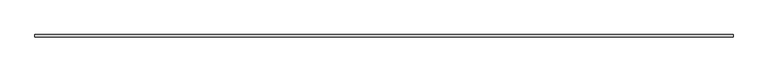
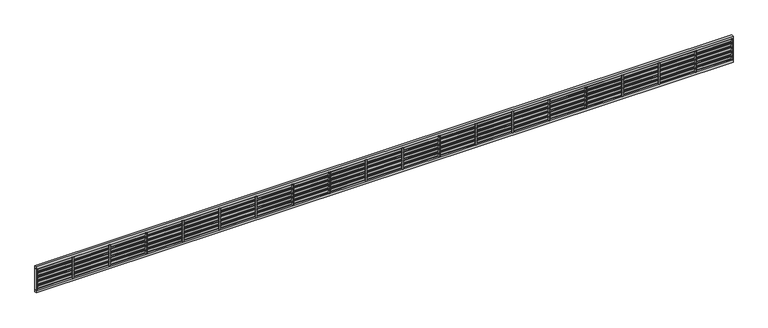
"""IFC4 building model written with IfcOpenShell, lengths in millimetres: furniture geometry, Mobiliário 1 : Mobiliário 25."""

from ifc_helpers import new_model, si_unit, frame, origin, place, context, project, spatial, polyline, outline, extrude, source, transform, mapped, element, save


def furniture_104a0ec1(model_context):
    return source(origin(), model_context, "Body", "SweptSolid", [
        extrude(outline(polyline([(-12491.5799257, 4208.1891535), (-12420.5697205, 4021.2197689), (-12443.9408936, 4012.3434933), (-12444.4734702, 4013.7457637), (-12422.5045675, 4022.0894628), (-12492.4496195, 4206.2543066), (-12514.4185222, 4197.9106075), (-12514.9510988, 4199.3128778), (-12491.5799257, 4208.1891535)])), frame((-10124.2352635, 0.0, 0.0), z_axis=(1.0, 0.0, 0.0), x_axis=(0.0, 1.0, 0.0)), (0.0, 0.0, 1.0), 1568.0),
        extrude(outline(polyline([(-12491.5799257, 4208.1891535), (-12420.5697205, 4021.2197689), (-12443.9408936, 4012.3434933), (-12444.4734702, 4013.7457637), (-12422.5045675, 4022.0894628), (-12492.4496195, 4206.2543066), (-12514.4185222, 4197.9106075), (-12514.9510988, 4199.3128778), (-12491.5799257, 4208.1891535)])), frame((-8514.2352635, 0.0, 0.0), z_axis=(1.0, 0.0, 0.0), x_axis=(0.0, 1.0, 0.0)), (0.0, 0.0, 1.0), 1568.0),
        extrude(outline(polyline([(-12491.5799257, 4208.1891535), (-12420.5697205, 4021.2197689), (-12443.9408936, 4012.3434933), (-12444.4734702, 4013.7457637), (-12422.5045675, 4022.0894628), (-12492.4496195, 4206.2543066), (-12514.4185222, 4197.9106075), (-12514.9510988, 4199.3128778), (-12491.5799257, 4208.1891535)])), frame((-6904.2352635, 0.0, 0.0), z_axis=(1.0, 0.0, 0.0), x_axis=(0.0, 1.0, 0.0)), (0.0, 0.0, 1.0), 1568.0),
        extrude(outline(polyline([(-12491.5799257, 4208.1891535), (-12420.5697205, 4021.2197689), (-12443.9408936, 4012.3434933), (-12444.4734702, 4013.7457637), (-12422.5045675, 4022.0894628), (-12492.4496195, 4206.2543066), (-12514.4185222, 4197.9106075), (-12514.9510988, 4199.3128778), (-12491.5799257, 4208.1891535)])), frame((-5294.2352635, 0.0, 0.0), z_axis=(1.0, 0.0, 0.0), x_axis=(0.0, 1.0, 0.0)), (0.0, 0.0, 1.0), 1570.0),
        extrude(outline(polyline([(-12491.5799257, 4208.1891535), (-12420.5697205, 4021.2197689), (-12443.9408936, 4012.3434933), (-12444.4734702, 4013.7457637), (-12422.5045675, 4022.0894628), (-12492.4496195, 4206.2543066), (-12514.4185222, 4197.9106075), (-12514.9510988, 4199.3128778), (-12491.5799257, 4208.1891535)])), frame((-11734.2352635, 0.0, 0.0), z_axis=(1.0, 0.0, 0.0), x_axis=(0.0, 1.0, 0.0)), (0.0, 0.0, 1.0), 1570.0),
        extrude(outline(polyline([(-12491.5799257, 4208.1891535), (-12420.5697205, 4021.2197689), (-12443.9408936, 4012.3434933), (-12444.4734702, 4013.7457637), (-12422.5045675, 4022.0894628), (-12492.4496195, 4206.2543066), (-12514.4185222, 4197.9106075), (-12514.9510988, 4199.3128778), (-12491.5799257, 4208.1891535)])), frame((-21394.2352635, 0.0, 0.0), z_axis=(1.0, 0.0, 0.0), x_axis=(0.0, 1.0, 0.0)), (0.0, 0.0, 1.0), 1568.0),
        extrude(outline(polyline([(-12491.5799257, 4208.1891535), (-12420.5697205, 4021.2197689), (-12443.9408936, 4012.3434933), (-12444.4734702, 4013.7457637), (-12422.5045675, 4022.0894628), (-12492.4496195, 4206.2543066), (-12514.4185222, 4197.9106075), (-12514.9510988, 4199.3128778), (-12491.5799257, 4208.1891535)])), frame((-19784.2352635, 0.0, 0.0), z_axis=(1.0, 0.0, 0.0), x_axis=(0.0, 1.0, 0.0)), (0.0, 0.0, 1.0), 1568.0),
        extrude(outline(polyline([(-12491.5799257, 4208.1891535), (-12420.5697205, 4021.2197689), (-12443.9408936, 4012.3434933), (-12444.4734702, 4013.7457637), (-12422.5045675, 4022.0894628), (-12492.4496195, 4206.2543066), (-12514.4185222, 4197.9106075), (-12514.9510988, 4199.3128778), (-12491.5799257, 4208.1891535)])), frame((-18174.2352635, 0.0, 0.0), z_axis=(1.0, 0.0, 0.0), x_axis=(0.0, 1.0, 0.0)), (0.0, 0.0, 1.0), 1568.0),
        extrude(outline(polyline([(-12491.5799257, 4208.1891535), (-12420.5697205, 4021.2197689), (-12443.9408936, 4012.3434933), (-12444.4734702, 4013.7457637), (-12422.5045675, 4022.0894628), (-12492.4496195, 4206.2543066), (-12514.4185222, 4197.9106075), (-12514.9510988, 4199.3128778), (-12491.5799257, 4208.1891535)])), frame((-16564.2352635, 0.0, 0.0), z_axis=(1.0, 0.0, 0.0), x_axis=(0.0, 1.0, 0.0)), (0.0, 0.0, 1.0), 1570.0),
        extrude(outline(polyline([(-12491.5799257, 4208.1891535), (-12420.5697205, 4021.2197689), (-12443.9408936, 4012.3434933), (-12444.4734702, 4013.7457637), (-12422.5045675, 4022.0894628), (-12492.4496195, 4206.2543066), (-12514.4185222, 4197.9106075), (-12514.9510988, 4199.3128778), (-12491.5799257, 4208.1891535)])), frame((-23004.2352635, 0.0, 0.0), z_axis=(1.0, 0.0, 0.0), x_axis=(0.0, 1.0, 0.0)), (0.0, 0.0, 1.0), 1570.0),
        extrude(outline(polyline([(-12491.5799257, 4208.1891535), (-12420.5697205, 4021.2197689), (-12443.9408936, 4012.3434933), (-12444.4734702, 4013.7457637), (-12422.5045675, 4022.0894628), (-12492.4496195, 4206.2543066), (-12514.4185222, 4197.9106075), (-12514.9510988, 4199.3128778), (-12491.5799257, 4208.1891535)])), frame((-14954.2352635, 0.0, 0.0), z_axis=(1.0, 0.0, 0.0), x_axis=(0.0, 1.0, 0.0)), (0.0, 0.0, 1.0), 1568.0),
        extrude(outline(polyline([(-12491.5799257, 4208.1891535), (-12420.5697205, 4021.2197689), (-12443.9408936, 4012.3434933), (-12444.4734702, 4013.7457637), (-12422.5045675, 4022.0894628), (-12492.4496195, 4206.2543066), (-12514.4185222, 4197.9106075), (-12514.9510988, 4199.3128778), (-12491.5799257, 4208.1891535)])), frame((-13346.2352635, 0.0, 0.0), z_axis=(1.0, 0.0, 0.0), x_axis=(0.0, 1.0, 0.0)), (0.0, 0.0, 1.0), 1570.0),
        extrude(outline(polyline([(-12491.5799257, 3609.7356794), (-12420.5697205, 3422.7662948), (-12443.9408936, 3413.8900192), (-12444.4734702, 3415.2922896), (-12422.5045675, 3423.6359887), (-12492.4496195, 3607.8008325), (-12514.4185222, 3599.4571334), (-12514.9510988, 3600.8594038), (-12491.5799257, 3609.7356794)])), frame((-5294.2352635, 0.0, 0.0), z_axis=(1.0, 0.0, 0.0), x_axis=(0.0, 1.0, 0.0)), (0.0, 0.0, 1.0), 1570.0),
        extrude(outline(polyline([(-12491.5799257, 3809.2201708), (-12420.5697205, 3622.2507862), (-12443.9408936, 3613.3745106), (-12444.4734702, 3614.7767809), (-12422.5045675, 3623.12048), (-12492.4496195, 3807.2853238), (-12514.4185222, 3798.9416247), (-12514.9510988, 3800.3438951), (-12491.5799257, 3809.2201708)])), frame((-5294.2352635, 0.0, 0.0), z_axis=(1.0, 0.0, 0.0), x_axis=(0.0, 1.0, 0.0)), (0.0, 0.0, 1.0), 1570.0),
        extrude(outline(polyline([(-12491.5799257, 4008.7046621), (-12420.5697205, 3821.7352776), (-12443.9408936, 3812.8590019), (-12444.4734702, 3814.2612723), (-12422.5045675, 3822.6049714), (-12492.4496195, 4006.7698152), (-12514.4185222, 3998.4261161), (-12514.9510988, 3999.8283865), (-12491.5799257, 4008.7046621)])), frame((-5294.2352635, 0.0, 0.0), z_axis=(1.0, 0.0, 0.0), x_axis=(0.0, 1.0, 0.0)), (0.0, 0.0, 1.0), 1570.0),
        extrude(outline(polyline([(-12491.5799257, 4407.6736449), (-12420.5697205, 4220.7042603), (-12443.9408936, 4211.8279846), (-12444.4734702, 4213.230255), (-12422.5045675, 4221.5739541), (-12492.4496195, 4405.7387979), (-12514.4185222, 4397.3950988), (-12514.9510988, 4398.7973692), (-12491.5799257, 4407.6736449)])), frame((-5294.2352635, 0.0, 0.0), z_axis=(1.0, 0.0, 0.0), x_axis=(0.0, 1.0, 0.0)), (0.0, 0.0, 1.0), 1570.0),
        extrude(outline(polyline([(-12491.5799257, 3609.7356794), (-12420.5697205, 3422.7662948), (-12443.9408936, 3413.8900192), (-12444.4734702, 3415.2922896), (-12422.5045675, 3423.6359887), (-12492.4496195, 3607.8008325), (-12514.4185222, 3599.4571334), (-12514.9510988, 3600.8594038), (-12491.5799257, 3609.7356794)])), frame((-6904.2352635, 0.0, 0.0), z_axis=(1.0, 0.0, 0.0), x_axis=(0.0, 1.0, 0.0)), (0.0, 0.0, 1.0), 1570.0),
        extrude(outline(polyline([(-12491.5799257, 3809.2201708), (-12420.5697205, 3622.2507862), (-12443.9408936, 3613.3745106), (-12444.4734702, 3614.7767809), (-12422.5045675, 3623.12048), (-12492.4496195, 3807.2853238), (-12514.4185222, 3798.9416247), (-12514.9510988, 3800.3438951), (-12491.5799257, 3809.2201708)])), frame((-6904.2352635, 0.0, 0.0), z_axis=(1.0, 0.0, 0.0), x_axis=(0.0, 1.0, 0.0)), (0.0, 0.0, 1.0), 1570.0),
        extrude(outline(polyline([(-12491.5799257, 4008.7046621), (-12420.5697205, 3821.7352776), (-12443.9408936, 3812.8590019), (-12444.4734702, 3814.2612723), (-12422.5045675, 3822.6049714), (-12492.4496195, 4006.7698152), (-12514.4185222, 3998.4261161), (-12514.9510988, 3999.8283865), (-12491.5799257, 4008.7046621)])), frame((-6904.2352635, 0.0, 0.0), z_axis=(1.0, 0.0, 0.0), x_axis=(0.0, 1.0, 0.0)), (0.0, 0.0, 1.0), 1570.0),
        extrude(outline(polyline([(-12491.5799257, 4407.6736449), (-12420.5697205, 4220.7042603), (-12443.9408936, 4211.8279846), (-12444.4734702, 4213.230255), (-12422.5045675, 4221.5739541), (-12492.4496195, 4405.7387979), (-12514.4185222, 4397.3950988), (-12514.9510988, 4398.7973692), (-12491.5799257, 4407.6736449)])), frame((-6904.2352635, 0.0, 0.0), z_axis=(1.0, 0.0, 0.0), x_axis=(0.0, 1.0, 0.0)), (0.0, 0.0, 1.0), 1570.0),
        extrude(outline(polyline([(-12491.5799257, 3609.7356794), (-12420.5697205, 3422.7662948), (-12443.9408936, 3413.8900192), (-12444.4734702, 3415.2922896), (-12422.5045675, 3423.6359887), (-12492.4496195, 3607.8008325), (-12514.4185222, 3599.4571334), (-12514.9510988, 3600.8594038), (-12491.5799257, 3609.7356794)])), frame((-8514.2352635, 0.0, 0.0), z_axis=(1.0, 0.0, 0.0), x_axis=(0.0, 1.0, 0.0)), (0.0, 0.0, 1.0), 1570.0),
        extrude(outline(polyline([(-12491.5799257, 3809.2201708), (-12420.5697205, 3622.2507862), (-12443.9408936, 3613.3745106), (-12444.4734702, 3614.7767809), (-12422.5045675, 3623.12048), (-12492.4496195, 3807.2853238), (-12514.4185222, 3798.9416247), (-12514.9510988, 3800.3438951), (-12491.5799257, 3809.2201708)])), frame((-8514.2352635, 0.0, 0.0), z_axis=(1.0, 0.0, 0.0), x_axis=(0.0, 1.0, 0.0)), (0.0, 0.0, 1.0), 1570.0),
        extrude(outline(polyline([(-12491.5799257, 4008.7046621), (-12420.5697205, 3821.7352776), (-12443.9408936, 3812.8590019), (-12444.4734702, 3814.2612723), (-12422.5045675, 3822.6049714), (-12492.4496195, 4006.7698152), (-12514.4185222, 3998.4261161), (-12514.9510988, 3999.8283865), (-12491.5799257, 4008.7046621)])), frame((-8514.2352635, 0.0, 0.0), z_axis=(1.0, 0.0, 0.0), x_axis=(0.0, 1.0, 0.0)), (0.0, 0.0, 1.0), 1570.0),
        extrude(outline(polyline([(-12491.5799257, 4407.6736449), (-12420.5697205, 4220.7042603), (-12443.9408936, 4211.8279846), (-12444.4734702, 4213.230255), (-12422.5045675, 4221.5739541), (-12492.4496195, 4405.7387979), (-12514.4185222, 4397.3950988), (-12514.9510988, 4398.7973692), (-12491.5799257, 4407.6736449)])), frame((-8514.2352635, 0.0, 0.0), z_axis=(1.0, 0.0, 0.0), x_axis=(0.0, 1.0, 0.0)), (0.0, 0.0, 1.0), 1570.0),
        extrude(outline(polyline([(-12491.5799257, 3609.7356794), (-12420.5697205, 3422.7662948), (-12443.9408936, 3413.8900192), (-12444.4734702, 3415.2922896), (-12422.5045675, 3423.6359887), (-12492.4496195, 3607.8008325), (-12514.4185222, 3599.4571334), (-12514.9510988, 3600.8594038), (-12491.5799257, 3609.7356794)])), frame((-10124.2352635, 0.0, 0.0), z_axis=(1.0, 0.0, 0.0), x_axis=(0.0, 1.0, 0.0)), (0.0, 0.0, 1.0), 1570.0),
        extrude(outline(polyline([(-12491.5799257, 3809.2201708), (-12420.5697205, 3622.2507862), (-12443.9408936, 3613.3745106), (-12444.4734702, 3614.7767809), (-12422.5045675, 3623.12048), (-12492.4496195, 3807.2853238), (-12514.4185222, 3798.9416247), (-12514.9510988, 3800.3438951), (-12491.5799257, 3809.2201708)])), frame((-10124.2352635, 0.0, 0.0), z_axis=(1.0, 0.0, 0.0), x_axis=(0.0, 1.0, 0.0)), (0.0, 0.0, 1.0), 1570.0),
        extrude(outline(polyline([(-12491.5799257, 4008.7046621), (-12420.5697205, 3821.7352776), (-12443.9408936, 3812.8590019), (-12444.4734702, 3814.2612723), (-12422.5045675, 3822.6049714), (-12492.4496195, 4006.7698152), (-12514.4185222, 3998.4261161), (-12514.9510988, 3999.8283865), (-12491.5799257, 4008.7046621)])), frame((-10124.2352635, 0.0, 0.0), z_axis=(1.0, 0.0, 0.0), x_axis=(0.0, 1.0, 0.0)), (0.0, 0.0, 1.0), 1570.0),
        extrude(outline(polyline([(-12491.5799257, 4407.6736449), (-12420.5697205, 4220.7042603), (-12443.9408936, 4211.8279846), (-12444.4734702, 4213.230255), (-12422.5045675, 4221.5739541), (-12492.4496195, 4405.7387979), (-12514.4185222, 4397.3950988), (-12514.9510988, 4398.7973692), (-12491.5799257, 4407.6736449)])), frame((-10124.2352635, 0.0, 0.0), z_axis=(1.0, 0.0, 0.0), x_axis=(0.0, 1.0, 0.0)), (0.0, 0.0, 1.0), 1570.0),
        extrude(outline(polyline([(-12491.5799257, 3609.7356794), (-12420.5697205, 3422.7662948), (-12443.9408936, 3413.8900192), (-12444.4734702, 3415.2922896), (-12422.5045675, 3423.6359887), (-12492.4496195, 3607.8008325), (-12514.4185222, 3599.4571334), (-12514.9510988, 3600.8594038), (-12491.5799257, 3609.7356794)])), frame((-11734.2352635, 0.0, 0.0), z_axis=(1.0, 0.0, 0.0), x_axis=(0.0, 1.0, 0.0)), (0.0, 0.0, 1.0), 1570.0),
        extrude(outline(polyline([(-12491.5799257, 3809.2201708), (-12420.5697205, 3622.2507862), (-12443.9408936, 3613.3745106), (-12444.4734702, 3614.7767809), (-12422.5045675, 3623.12048), (-12492.4496195, 3807.2853238), (-12514.4185222, 3798.9416247), (-12514.9510988, 3800.3438951), (-12491.5799257, 3809.2201708)])), frame((-11734.2352635, 0.0, 0.0), z_axis=(1.0, 0.0, 0.0), x_axis=(0.0, 1.0, 0.0)), (0.0, 0.0, 1.0), 1570.0),
        extrude(outline(polyline([(-12491.5799257, 4008.7046621), (-12420.5697205, 3821.7352776), (-12443.9408936, 3812.8590019), (-12444.4734702, 3814.2612723), (-12422.5045675, 3822.6049714), (-12492.4496195, 4006.7698152), (-12514.4185222, 3998.4261161), (-12514.9510988, 3999.8283865), (-12491.5799257, 4008.7046621)])), frame((-11734.2352635, 0.0, 0.0), z_axis=(1.0, 0.0, 0.0), x_axis=(0.0, 1.0, 0.0)), (0.0, 0.0, 1.0), 1570.0),
        extrude(outline(polyline([(-12491.5799257, 4407.6736449), (-12420.5697205, 4220.7042603), (-12443.9408936, 4211.8279846), (-12444.4734702, 4213.230255), (-12422.5045675, 4221.5739541), (-12492.4496195, 4405.7387979), (-12514.4185222, 4397.3950988), (-12514.9510988, 4398.7973692), (-12491.5799257, 4407.6736449)])), frame((-11734.2352635, 0.0, 0.0), z_axis=(1.0, 0.0, 0.0), x_axis=(0.0, 1.0, 0.0)), (0.0, 0.0, 1.0), 1570.0),
        extrude(outline(polyline([(-12491.5799257, 3609.7356794), (-12420.5697205, 3422.7662948), (-12443.9408936, 3413.8900192), (-12444.4734702, 3415.2922896), (-12422.5045675, 3423.6359887), (-12492.4496195, 3607.8008325), (-12514.4185222, 3599.4571334), (-12514.9510988, 3600.8594038), (-12491.5799257, 3609.7356794)])), frame((-13344.2352635, 0.0, 0.0), z_axis=(1.0, 0.0, 0.0), x_axis=(0.0, 1.0, 0.0)), (0.0, 0.0, 1.0), 1570.0),
        extrude(outline(polyline([(-12491.5799257, 3809.2201708), (-12420.5697205, 3622.2507862), (-12443.9408936, 3613.3745106), (-12444.4734702, 3614.7767809), (-12422.5045675, 3623.12048), (-12492.4496195, 3807.2853238), (-12514.4185222, 3798.9416247), (-12514.9510988, 3800.3438951), (-12491.5799257, 3809.2201708)])), frame((-13344.2352635, 0.0, 0.0), z_axis=(1.0, 0.0, 0.0), x_axis=(0.0, 1.0, 0.0)), (0.0, 0.0, 1.0), 1570.0),
        extrude(outline(polyline([(-12491.5799257, 4008.7046621), (-12420.5697205, 3821.7352776), (-12443.9408936, 3812.8590019), (-12444.4734702, 3814.2612723), (-12422.5045675, 3822.6049714), (-12492.4496195, 4006.7698152), (-12514.4185222, 3998.4261161), (-12514.9510988, 3999.8283865), (-12491.5799257, 4008.7046621)])), frame((-13344.2352635, 0.0, 0.0), z_axis=(1.0, 0.0, 0.0), x_axis=(0.0, 1.0, 0.0)), (0.0, 0.0, 1.0), 1570.0),
        extrude(outline(polyline([(-12491.5799257, 4407.6736449), (-12420.5697205, 4220.7042603), (-12443.9408936, 4211.8279846), (-12444.4734702, 4213.230255), (-12422.5045675, 4221.5739541), (-12492.4496195, 4405.7387979), (-12514.4185222, 4397.3950988), (-12514.9510988, 4398.7973692), (-12491.5799257, 4407.6736449)])), frame((-13344.2352635, 0.0, 0.0), z_axis=(1.0, 0.0, 0.0), x_axis=(0.0, 1.0, 0.0)), (0.0, 0.0, 1.0), 1570.0),
        extrude(outline(polyline([(-12491.5799257, 3609.7356794), (-12420.5697205, 3422.7662948), (-12443.9408936, 3413.8900192), (-12444.4734702, 3415.2922896), (-12422.5045675, 3423.6359887), (-12492.4496195, 3607.8008325), (-12514.4185222, 3599.4571334), (-12514.9510988, 3600.8594038), (-12491.5799257, 3609.7356794)])), frame((-14954.2352635, 0.0, 0.0), z_axis=(1.0, 0.0, 0.0), x_axis=(0.0, 1.0, 0.0)), (0.0, 0.0, 1.0), 1570.0),
        extrude(outline(polyline([(-12491.5799257, 3809.2201708), (-12420.5697205, 3622.2507862), (-12443.9408936, 3613.3745106), (-12444.4734702, 3614.7767809), (-12422.5045675, 3623.12048), (-12492.4496195, 3807.2853238), (-12514.4185222, 3798.9416247), (-12514.9510988, 3800.3438951), (-12491.5799257, 3809.2201708)])), frame((-14954.2352635, 0.0, 0.0), z_axis=(1.0, 0.0, 0.0), x_axis=(0.0, 1.0, 0.0)), (0.0, 0.0, 1.0), 1570.0),
        extrude(outline(polyline([(-12491.5799257, 4008.7046621), (-12420.5697205, 3821.7352776), (-12443.9408936, 3812.8590019), (-12444.4734702, 3814.2612723), (-12422.5045675, 3822.6049714), (-12492.4496195, 4006.7698152), (-12514.4185222, 3998.4261161), (-12514.9510988, 3999.8283865), (-12491.5799257, 4008.7046621)])), frame((-14954.2352635, 0.0, 0.0), z_axis=(1.0, 0.0, 0.0), x_axis=(0.0, 1.0, 0.0)), (0.0, 0.0, 1.0), 1570.0),
        extrude(outline(polyline([(-12491.5799257, 4407.6736449), (-12420.5697205, 4220.7042603), (-12443.9408936, 4211.8279846), (-12444.4734702, 4213.230255), (-12422.5045675, 4221.5739541), (-12492.4496195, 4405.7387979), (-12514.4185222, 4397.3950988), (-12514.9510988, 4398.7973692), (-12491.5799257, 4407.6736449)])), frame((-14954.2352635, 0.0, 0.0), z_axis=(1.0, 0.0, 0.0), x_axis=(0.0, 1.0, 0.0)), (0.0, 0.0, 1.0), 1570.0),
        extrude(outline(polyline([(-12491.5799257, 3609.7356794), (-12420.5697205, 3422.7662948), (-12443.9408936, 3413.8900192), (-12444.4734702, 3415.2922896), (-12422.5045675, 3423.6359887), (-12492.4496195, 3607.8008325), (-12514.4185222, 3599.4571334), (-12514.9510988, 3600.8594038), (-12491.5799257, 3609.7356794)])), frame((-16564.2352635, 0.0, 0.0), z_axis=(1.0, 0.0, 0.0), x_axis=(0.0, 1.0, 0.0)), (0.0, 0.0, 1.0), 1570.0),
        extrude(outline(polyline([(-12491.5799257, 3809.2201708), (-12420.5697205, 3622.2507862), (-12443.9408936, 3613.3745106), (-12444.4734702, 3614.7767809), (-12422.5045675, 3623.12048), (-12492.4496195, 3807.2853238), (-12514.4185222, 3798.9416247), (-12514.9510988, 3800.3438951), (-12491.5799257, 3809.2201708)])), frame((-16564.2352635, 0.0, 0.0), z_axis=(1.0, 0.0, 0.0), x_axis=(0.0, 1.0, 0.0)), (0.0, 0.0, 1.0), 1570.0),
        extrude(outline(polyline([(-12491.5799257, 4008.7046621), (-12420.5697205, 3821.7352776), (-12443.9408936, 3812.8590019), (-12444.4734702, 3814.2612723), (-12422.5045675, 3822.6049714), (-12492.4496195, 4006.7698152), (-12514.4185222, 3998.4261161), (-12514.9510988, 3999.8283865), (-12491.5799257, 4008.7046621)])), frame((-16564.2352635, 0.0, 0.0), z_axis=(1.0, 0.0, 0.0), x_axis=(0.0, 1.0, 0.0)), (0.0, 0.0, 1.0), 1570.0),
        extrude(outline(polyline([(-12491.5799257, 4407.6736449), (-12420.5697205, 4220.7042603), (-12443.9408936, 4211.8279846), (-12444.4734702, 4213.230255), (-12422.5045675, 4221.5739541), (-12492.4496195, 4405.7387979), (-12514.4185222, 4397.3950988), (-12514.9510988, 4398.7973692), (-12491.5799257, 4407.6736449)])), frame((-16564.2352635, 0.0, 0.0), z_axis=(1.0, 0.0, 0.0), x_axis=(0.0, 1.0, 0.0)), (0.0, 0.0, 1.0), 1570.0),
        extrude(outline(polyline([(-12491.5799257, 3609.7356794), (-12420.5697205, 3422.7662948), (-12443.9408936, 3413.8900192), (-12444.4734702, 3415.2922896), (-12422.5045675, 3423.6359887), (-12492.4496195, 3607.8008325), (-12514.4185222, 3599.4571334), (-12514.9510988, 3600.8594038), (-12491.5799257, 3609.7356794)])), frame((-18174.2352635, 0.0, 0.0), z_axis=(1.0, 0.0, 0.0), x_axis=(0.0, 1.0, 0.0)), (0.0, 0.0, 1.0), 1570.0),
        extrude(outline(polyline([(-12491.5799257, 3809.2201708), (-12420.5697205, 3622.2507862), (-12443.9408936, 3613.3745106), (-12444.4734702, 3614.7767809), (-12422.5045675, 3623.12048), (-12492.4496195, 3807.2853238), (-12514.4185222, 3798.9416247), (-12514.9510988, 3800.3438951), (-12491.5799257, 3809.2201708)])), frame((-18174.2352635, 0.0, 0.0), z_axis=(1.0, 0.0, 0.0), x_axis=(0.0, 1.0, 0.0)), (0.0, 0.0, 1.0), 1570.0),
        extrude(outline(polyline([(-12491.5799257, 4008.7046621), (-12420.5697205, 3821.7352776), (-12443.9408936, 3812.8590019), (-12444.4734702, 3814.2612723), (-12422.5045675, 3822.6049714), (-12492.4496195, 4006.7698152), (-12514.4185222, 3998.4261161), (-12514.9510988, 3999.8283865), (-12491.5799257, 4008.7046621)])), frame((-18174.2352635, 0.0, 0.0), z_axis=(1.0, 0.0, 0.0), x_axis=(0.0, 1.0, 0.0)), (0.0, 0.0, 1.0), 1570.0),
        extrude(outline(polyline([(-12491.5799257, 4407.6736449), (-12420.5697205, 4220.7042603), (-12443.9408936, 4211.8279846), (-12444.4734702, 4213.230255), (-12422.5045675, 4221.5739541), (-12492.4496195, 4405.7387979), (-12514.4185222, 4397.3950988), (-12514.9510988, 4398.7973692), (-12491.5799257, 4407.6736449)])), frame((-18174.2352635, 0.0, 0.0), z_axis=(1.0, 0.0, 0.0), x_axis=(0.0, 1.0, 0.0)), (0.0, 0.0, 1.0), 1570.0),
        extrude(outline(polyline([(-12491.5799257, 3609.7356794), (-12420.5697205, 3422.7662948), (-12443.9408936, 3413.8900192), (-12444.4734702, 3415.2922896), (-12422.5045675, 3423.6359887), (-12492.4496195, 3607.8008325), (-12514.4185222, 3599.4571334), (-12514.9510988, 3600.8594038), (-12491.5799257, 3609.7356794)])), frame((-19784.2352635, 0.0, 0.0), z_axis=(1.0, 0.0, 0.0), x_axis=(0.0, 1.0, 0.0)), (0.0, 0.0, 1.0), 1570.0),
        extrude(outline(polyline([(-12491.5799257, 3809.2201708), (-12420.5697205, 3622.2507862), (-12443.9408936, 3613.3745106), (-12444.4734702, 3614.7767809), (-12422.5045675, 3623.12048), (-12492.4496195, 3807.2853238), (-12514.4185222, 3798.9416247), (-12514.9510988, 3800.3438951), (-12491.5799257, 3809.2201708)])), frame((-19784.2352635, 0.0, 0.0), z_axis=(1.0, 0.0, 0.0), x_axis=(0.0, 1.0, 0.0)), (0.0, 0.0, 1.0), 1570.0),
        extrude(outline(polyline([(-12491.5799257, 4008.7046621), (-12420.5697205, 3821.7352776), (-12443.9408936, 3812.8590019), (-12444.4734702, 3814.2612723), (-12422.5045675, 3822.6049714), (-12492.4496195, 4006.7698152), (-12514.4185222, 3998.4261161), (-12514.9510988, 3999.8283865), (-12491.5799257, 4008.7046621)])), frame((-19784.2352635, 0.0, 0.0), z_axis=(1.0, 0.0, 0.0), x_axis=(0.0, 1.0, 0.0)), (0.0, 0.0, 1.0), 1570.0),
        extrude(outline(polyline([(-12491.5799257, 4407.6736449), (-12420.5697205, 4220.7042603), (-12443.9408936, 4211.8279846), (-12444.4734702, 4213.230255), (-12422.5045675, 4221.5739541), (-12492.4496195, 4405.7387979), (-12514.4185222, 4397.3950988), (-12514.9510988, 4398.7973692), (-12491.5799257, 4407.6736449)])), frame((-19784.2352635, 0.0, 0.0), z_axis=(1.0, 0.0, 0.0), x_axis=(0.0, 1.0, 0.0)), (0.0, 0.0, 1.0), 1570.0),
        extrude(outline(polyline([(-12491.5799257, 3609.7356794), (-12420.5697205, 3422.7662948), (-12443.9408936, 3413.8900192), (-12444.4734702, 3415.2922896), (-12422.5045675, 3423.6359887), (-12492.4496195, 3607.8008325), (-12514.4185222, 3599.4571334), (-12514.9510988, 3600.8594038), (-12491.5799257, 3609.7356794)])), frame((-21394.2352635, 0.0, 0.0), z_axis=(1.0, 0.0, 0.0), x_axis=(0.0, 1.0, 0.0)), (0.0, 0.0, 1.0), 1570.0),
        extrude(outline(polyline([(-12491.5799257, 3809.2201708), (-12420.5697205, 3622.2507862), (-12443.9408936, 3613.3745106), (-12444.4734702, 3614.7767809), (-12422.5045675, 3623.12048), (-12492.4496195, 3807.2853238), (-12514.4185222, 3798.9416247), (-12514.9510988, 3800.3438951), (-12491.5799257, 3809.2201708)])), frame((-21394.2352635, 0.0, 0.0), z_axis=(1.0, 0.0, 0.0), x_axis=(0.0, 1.0, 0.0)), (0.0, 0.0, 1.0), 1570.0),
        extrude(outline(polyline([(-12491.5799257, 4008.7046621), (-12420.5697205, 3821.7352776), (-12443.9408936, 3812.8590019), (-12444.4734702, 3814.2612723), (-12422.5045675, 3822.6049714), (-12492.4496195, 4006.7698152), (-12514.4185222, 3998.4261161), (-12514.9510988, 3999.8283865), (-12491.5799257, 4008.7046621)])), frame((-21394.2352635, 0.0, 0.0), z_axis=(1.0, 0.0, 0.0), x_axis=(0.0, 1.0, 0.0)), (0.0, 0.0, 1.0), 1570.0),
        extrude(outline(polyline([(-12491.5799257, 4407.6736449), (-12420.5697205, 4220.7042603), (-12443.9408936, 4211.8279846), (-12444.4734702, 4213.230255), (-12422.5045675, 4221.5739541), (-12492.4496195, 4405.7387979), (-12514.4185222, 4397.3950988), (-12514.9510988, 4398.7973692), (-12491.5799257, 4407.6736449)])), frame((-21394.2352635, 0.0, 0.0), z_axis=(1.0, 0.0, 0.0), x_axis=(0.0, 1.0, 0.0)), (0.0, 0.0, 1.0), 1570.0),
        extrude(outline(polyline([(-12491.5799257, 3609.7356794), (-12420.5697205, 3422.7662948), (-12443.9408936, 3413.8900192), (-12444.4734702, 3415.2922896), (-12422.5045675, 3423.6359887), (-12492.4496195, 3607.8008325), (-12514.4185222, 3599.4571334), (-12514.9510988, 3600.8594038), (-12491.5799257, 3609.7356794)])), frame((-32662.2352635, 0.0, 0.0), z_axis=(1.0, 0.0, 0.0), x_axis=(0.0, 1.0, 0.0)), (0.0, 0.0, 1.0), 1568.0),
        extrude(outline(polyline([(-12491.5799257, 3809.2201708), (-12420.5697205, 3622.2507862), (-12443.9408936, 3613.3745106), (-12444.4734702, 3614.7767809), (-12422.5045675, 3623.12048), (-12492.4496195, 3807.2853238), (-12514.4185222, 3798.9416247), (-12514.9510988, 3800.3438951), (-12491.5799257, 3809.2201708)])), frame((-32662.2352635, 0.0, 0.0), z_axis=(1.0, 0.0, 0.0), x_axis=(0.0, 1.0, 0.0)), (0.0, 0.0, 1.0), 1568.0),
        extrude(outline(polyline([(-12491.5799257, 4008.7046621), (-12420.5697205, 3821.7352776), (-12443.9408936, 3812.8590019), (-12444.4734702, 3814.2612723), (-12422.5045675, 3822.6049714), (-12492.4496195, 4006.7698152), (-12514.4185222, 3998.4261161), (-12514.9510988, 3999.8283865), (-12491.5799257, 4008.7046621)])), frame((-32662.2352635, 0.0, 0.0), z_axis=(1.0, 0.0, 0.0), x_axis=(0.0, 1.0, 0.0)), (0.0, 0.0, 1.0), 1568.0),
        extrude(outline(polyline([(-12491.5799257, 4208.1891535), (-12420.5697205, 4021.2197689), (-12443.9408936, 4012.3434933), (-12444.4734702, 4013.7457637), (-12422.5045675, 4022.0894628), (-12492.4496195, 4206.2543066), (-12514.4185222, 4197.9106075), (-12514.9510988, 4199.3128778), (-12491.5799257, 4208.1891535)])), frame((-32662.2352635, 0.0, 0.0), z_axis=(1.0, 0.0, 0.0), x_axis=(0.0, 1.0, 0.0)), (0.0, 0.0, 1.0), 1568.0),
        extrude(outline(polyline([(-12491.5799257, 4407.6736449), (-12420.5697205, 4220.7042603), (-12443.9408936, 4211.8279846), (-12444.4734702, 4213.230255), (-12422.5045675, 4221.5739541), (-12492.4496195, 4405.7387979), (-12514.4185222, 4397.3950988), (-12514.9510988, 4398.7973692), (-12491.5799257, 4407.6736449)])), frame((-32662.2352635, 0.0, 0.0), z_axis=(1.0, 0.0, 0.0), x_axis=(0.0, 1.0, 0.0)), (0.0, 0.0, 1.0), 1568.0),
        extrude(outline(polyline([(-12491.5799257, 3609.7356794), (-12420.5697205, 3422.7662948), (-12443.9408936, 3413.8900192), (-12444.4734702, 3415.2922896), (-12422.5045675, 3423.6359887), (-12492.4496195, 3607.8008325), (-12514.4185222, 3599.4571334), (-12514.9510988, 3600.8594038), (-12491.5799257, 3609.7356794)])), frame((-31052.2352635, 0.0, 0.0), z_axis=(1.0, 0.0, 0.0), x_axis=(0.0, 1.0, 0.0)), (0.0, 0.0, 1.0), 1568.0),
        extrude(outline(polyline([(-12491.5799257, 3809.2201708), (-12420.5697205, 3622.2507862), (-12443.9408936, 3613.3745106), (-12444.4734702, 3614.7767809), (-12422.5045675, 3623.12048), (-12492.4496195, 3807.2853238), (-12514.4185222, 3798.9416247), (-12514.9510988, 3800.3438951), (-12491.5799257, 3809.2201708)])), frame((-31052.2352635, 0.0, 0.0), z_axis=(1.0, 0.0, 0.0), x_axis=(0.0, 1.0, 0.0)), (0.0, 0.0, 1.0), 1568.0),
        extrude(outline(polyline([(-12491.5799257, 4008.7046621), (-12420.5697205, 3821.7352776), (-12443.9408936, 3812.8590019), (-12444.4734702, 3814.2612723), (-12422.5045675, 3822.6049714), (-12492.4496195, 4006.7698152), (-12514.4185222, 3998.4261161), (-12514.9510988, 3999.8283865), (-12491.5799257, 4008.7046621)])), frame((-31052.2352635, 0.0, 0.0), z_axis=(1.0, 0.0, 0.0), x_axis=(0.0, 1.0, 0.0)), (0.0, 0.0, 1.0), 1568.0),
        extrude(outline(polyline([(-12491.5799257, 4208.1891535), (-12420.5697205, 4021.2197689), (-12443.9408936, 4012.3434933), (-12444.4734702, 4013.7457637), (-12422.5045675, 4022.0894628), (-12492.4496195, 4206.2543066), (-12514.4185222, 4197.9106075), (-12514.9510988, 4199.3128778), (-12491.5799257, 4208.1891535)])), frame((-31052.2352635, 0.0, 0.0), z_axis=(1.0, 0.0, 0.0), x_axis=(0.0, 1.0, 0.0)), (0.0, 0.0, 1.0), 1568.0),
        extrude(outline(polyline([(-12491.5799257, 4407.6736449), (-12420.5697205, 4220.7042603), (-12443.9408936, 4211.8279846), (-12444.4734702, 4213.230255), (-12422.5045675, 4221.5739541), (-12492.4496195, 4405.7387979), (-12514.4185222, 4397.3950988), (-12514.9510988, 4398.7973692), (-12491.5799257, 4407.6736449)])), frame((-31052.2352635, 0.0, 0.0), z_axis=(1.0, 0.0, 0.0), x_axis=(0.0, 1.0, 0.0)), (0.0, 0.0, 1.0), 1568.0),
        extrude(outline(polyline([(-12491.5799257, 3609.7356794), (-12420.5697205, 3422.7662948), (-12443.9408936, 3413.8900192), (-12444.4734702, 3415.2922896), (-12422.5045675, 3423.6359887), (-12492.4496195, 3607.8008325), (-12514.4185222, 3599.4571334), (-12514.9510988, 3600.8594038), (-12491.5799257, 3609.7356794)])), frame((-29442.2352635, 0.0, 0.0), z_axis=(1.0, 0.0, 0.0), x_axis=(0.0, 1.0, 0.0)), (0.0, 0.0, 1.0), 1568.0),
        extrude(outline(polyline([(-12491.5799257, 3809.2201708), (-12420.5697205, 3622.2507862), (-12443.9408936, 3613.3745106), (-12444.4734702, 3614.7767809), (-12422.5045675, 3623.12048), (-12492.4496195, 3807.2853238), (-12514.4185222, 3798.9416247), (-12514.9510988, 3800.3438951), (-12491.5799257, 3809.2201708)])), frame((-29442.2352635, 0.0, 0.0), z_axis=(1.0, 0.0, 0.0), x_axis=(0.0, 1.0, 0.0)), (0.0, 0.0, 1.0), 1568.0),
        extrude(outline(polyline([(-12491.5799257, 4008.7046621), (-12420.5697205, 3821.7352776), (-12443.9408936, 3812.8590019), (-12444.4734702, 3814.2612723), (-12422.5045675, 3822.6049714), (-12492.4496195, 4006.7698152), (-12514.4185222, 3998.4261161), (-12514.9510988, 3999.8283865), (-12491.5799257, 4008.7046621)])), frame((-29442.2352635, 0.0, 0.0), z_axis=(1.0, 0.0, 0.0), x_axis=(0.0, 1.0, 0.0)), (0.0, 0.0, 1.0), 1568.0),
        extrude(outline(polyline([(-12491.5799257, 4208.1891535), (-12420.5697205, 4021.2197689), (-12443.9408936, 4012.3434933), (-12444.4734702, 4013.7457637), (-12422.5045675, 4022.0894628), (-12492.4496195, 4206.2543066), (-12514.4185222, 4197.9106075), (-12514.9510988, 4199.3128778), (-12491.5799257, 4208.1891535)])), frame((-29442.2352635, 0.0, 0.0), z_axis=(1.0, 0.0, 0.0), x_axis=(0.0, 1.0, 0.0)), (0.0, 0.0, 1.0), 1568.0),
        extrude(outline(polyline([(-12491.5799257, 4407.6736449), (-12420.5697205, 4220.7042603), (-12443.9408936, 4211.8279846), (-12444.4734702, 4213.230255), (-12422.5045675, 4221.5739541), (-12492.4496195, 4405.7387979), (-12514.4185222, 4397.3950988), (-12514.9510988, 4398.7973692), (-12491.5799257, 4407.6736449)])), frame((-29442.2352635, 0.0, 0.0), z_axis=(1.0, 0.0, 0.0), x_axis=(0.0, 1.0, 0.0)), (0.0, 0.0, 1.0), 1568.0),
        extrude(outline(polyline([(-12491.5799257, 3609.7356794), (-12420.5697205, 3422.7662948), (-12443.9408936, 3413.8900192), (-12444.4734702, 3415.2922896), (-12422.5045675, 3423.6359887), (-12492.4496195, 3607.8008325), (-12514.4185222, 3599.4571334), (-12514.9510988, 3600.8594038), (-12491.5799257, 3609.7356794)])), frame((-27832.2352635, 0.0, 0.0), z_axis=(1.0, 0.0, 0.0), x_axis=(0.0, 1.0, 0.0)), (0.0, 0.0, 1.0), 1570.0),
        extrude(outline(polyline([(-12491.5799257, 3809.2201708), (-12420.5697205, 3622.2507862), (-12443.9408936, 3613.3745106), (-12444.4734702, 3614.7767809), (-12422.5045675, 3623.12048), (-12492.4496195, 3807.2853238), (-12514.4185222, 3798.9416247), (-12514.9510988, 3800.3438951), (-12491.5799257, 3809.2201708)])), frame((-27832.2352635, 0.0, 0.0), z_axis=(1.0, 0.0, 0.0), x_axis=(0.0, 1.0, 0.0)), (0.0, 0.0, 1.0), 1570.0),
        extrude(outline(polyline([(-12491.5799257, 4008.7046621), (-12420.5697205, 3821.7352776), (-12443.9408936, 3812.8590019), (-12444.4734702, 3814.2612723), (-12422.5045675, 3822.6049714), (-12492.4496195, 4006.7698152), (-12514.4185222, 3998.4261161), (-12514.9510988, 3999.8283865), (-12491.5799257, 4008.7046621)])), frame((-27832.2352635, 0.0, 0.0), z_axis=(1.0, 0.0, 0.0), x_axis=(0.0, 1.0, 0.0)), (0.0, 0.0, 1.0), 1570.0),
        extrude(outline(polyline([(-12491.5799257, 4208.1891535), (-12420.5697205, 4021.2197689), (-12443.9408936, 4012.3434933), (-12444.4734702, 4013.7457637), (-12422.5045675, 4022.0894628), (-12492.4496195, 4206.2543066), (-12514.4185222, 4197.9106075), (-12514.9510988, 4199.3128778), (-12491.5799257, 4208.1891535)])), frame((-27832.2352635, 0.0, 0.0), z_axis=(1.0, 0.0, 0.0), x_axis=(0.0, 1.0, 0.0)), (0.0, 0.0, 1.0), 1570.0),
        extrude(outline(polyline([(-12491.5799257, 4407.6736449), (-12420.5697205, 4220.7042603), (-12443.9408936, 4211.8279846), (-12444.4734702, 4213.230255), (-12422.5045675, 4221.5739541), (-12492.4496195, 4405.7387979), (-12514.4185222, 4397.3950988), (-12514.9510988, 4398.7973692), (-12491.5799257, 4407.6736449)])), frame((-27832.2352635, 0.0, 0.0), z_axis=(1.0, 0.0, 0.0), x_axis=(0.0, 1.0, 0.0)), (0.0, 0.0, 1.0), 1570.0),
        extrude(outline(polyline([(-12491.5799257, 3609.7356794), (-12420.5697205, 3422.7662948), (-12443.9408936, 3413.8900192), (-12444.4734702, 3415.2922896), (-12422.5045675, 3423.6359887), (-12492.4496195, 3607.8008325), (-12514.4185222, 3599.4571334), (-12514.9510988, 3600.8594038), (-12491.5799257, 3609.7356794)])), frame((-34272.2352635, 0.0, 0.0), z_axis=(1.0, 0.0, 0.0), x_axis=(0.0, 1.0, 0.0)), (0.0, 0.0, 1.0), 1570.0),
        extrude(outline(polyline([(-12491.5799257, 3609.7356794), (-12420.5697205, 3422.7662948), (-12443.9408936, 3413.8900192), (-12444.4734702, 3415.2922896), (-12422.5045675, 3423.6359887), (-12492.4496195, 3607.8008325), (-12514.4185222, 3599.4571334), (-12514.9510988, 3600.8594038), (-12491.5799257, 3609.7356794)])), frame((-26222.2352635, 0.0, 0.0), z_axis=(1.0, 0.0, 0.0), x_axis=(0.0, 1.0, 0.0)), (0.0, 0.0, 1.0), 1568.0),
        extrude(outline(polyline([(-12491.5799257, 3609.7356794), (-12420.5697205, 3422.7662948), (-12443.9408936, 3413.8900192), (-12444.4734702, 3415.2922896), (-12422.5045675, 3423.6359887), (-12492.4496195, 3607.8008325), (-12514.4185222, 3599.4571334), (-12514.9510988, 3600.8594038), (-12491.5799257, 3609.7356794)])), frame((-24614.2352635, 0.0, 0.0), z_axis=(1.0, 0.0, 0.0), x_axis=(0.0, 1.0, 0.0)), (0.0, 0.0, 1.0), 1570.0),
        extrude(outline(polyline([(-12491.5799257, 3609.7356794), (-12420.5697205, 3422.7662948), (-12443.9408936, 3413.8900192), (-12444.4734702, 3415.2922896), (-12422.5045675, 3423.6359887), (-12492.4496195, 3607.8008325), (-12514.4185222, 3599.4571334), (-12514.9510988, 3600.8594038), (-12491.5799257, 3609.7356794)])), frame((-23004.2352635, 0.0, 0.0), z_axis=(1.0, 0.0, 0.0), x_axis=(0.0, 1.0, 0.0)), (0.0, 0.0, 1.0), 1570.0),
        extrude(outline(polyline([(-12491.5799257, 3809.2201708), (-12420.5697205, 3622.2507862), (-12443.9408936, 3613.3745106), (-12444.4734702, 3614.7767809), (-12422.5045675, 3623.12048), (-12492.4496195, 3807.2853238), (-12514.4185222, 3798.9416247), (-12514.9510988, 3800.3438951), (-12491.5799257, 3809.2201708)])), frame((-34272.2352635, 0.0, 0.0), z_axis=(1.0, 0.0, 0.0), x_axis=(0.0, 1.0, 0.0)), (0.0, 0.0, 1.0), 1570.0),
        extrude(outline(polyline([(-12491.5799257, 4008.7046621), (-12420.5697205, 3821.7352776), (-12443.9408936, 3812.8590019), (-12444.4734702, 3814.2612723), (-12422.5045675, 3822.6049714), (-12492.4496195, 4006.7698152), (-12514.4185222, 3998.4261161), (-12514.9510988, 3999.8283865), (-12491.5799257, 4008.7046621)])), frame((-34272.2352635, 0.0, 0.0), z_axis=(1.0, 0.0, 0.0), x_axis=(0.0, 1.0, 0.0)), (0.0, 0.0, 1.0), 1570.0),
        extrude(outline(polyline([(-12491.5799257, 3809.2201708), (-12420.5697205, 3622.2507862), (-12443.9408936, 3613.3745106), (-12444.4734702, 3614.7767809), (-12422.5045675, 3623.12048), (-12492.4496195, 3807.2853238), (-12514.4185222, 3798.9416247), (-12514.9510988, 3800.3438951), (-12491.5799257, 3809.2201708)])), frame((-26222.2352635, 0.0, 0.0), z_axis=(1.0, 0.0, 0.0), x_axis=(0.0, 1.0, 0.0)), (0.0, 0.0, 1.0), 1568.0),
        extrude(outline(polyline([(-12491.5799257, 4008.7046621), (-12420.5697205, 3821.7352776), (-12443.9408936, 3812.8590019), (-12444.4734702, 3814.2612723), (-12422.5045675, 3822.6049714), (-12492.4496195, 4006.7698152), (-12514.4185222, 3998.4261161), (-12514.9510988, 3999.8283865), (-12491.5799257, 4008.7046621)])), frame((-26222.2352635, 0.0, 0.0), z_axis=(1.0, 0.0, 0.0), x_axis=(0.0, 1.0, 0.0)), (0.0, 0.0, 1.0), 1568.0),
        extrude(outline(polyline([(-12491.5799257, 3809.2201708), (-12420.5697205, 3622.2507862), (-12443.9408936, 3613.3745106), (-12444.4734702, 3614.7767809), (-12422.5045675, 3623.12048), (-12492.4496195, 3807.2853238), (-12514.4185222, 3798.9416247), (-12514.9510988, 3800.3438951), (-12491.5799257, 3809.2201708)])), frame((-24614.2352635, 0.0, 0.0), z_axis=(1.0, 0.0, 0.0), x_axis=(0.0, 1.0, 0.0)), (0.0, 0.0, 1.0), 1570.0),
        extrude(outline(polyline([(-12491.5799257, 4008.7046621), (-12420.5697205, 3821.7352776), (-12443.9408936, 3812.8590019), (-12444.4734702, 3814.2612723), (-12422.5045675, 3822.6049714), (-12492.4496195, 4006.7698152), (-12514.4185222, 3998.4261161), (-12514.9510988, 3999.8283865), (-12491.5799257, 4008.7046621)])), frame((-24614.2352635, 0.0, 0.0), z_axis=(1.0, 0.0, 0.0), x_axis=(0.0, 1.0, 0.0)), (0.0, 0.0, 1.0), 1570.0),
        extrude(outline(polyline([(-12491.5799257, 3809.2201708), (-12420.5697205, 3622.2507862), (-12443.9408936, 3613.3745106), (-12444.4734702, 3614.7767809), (-12422.5045675, 3623.12048), (-12492.4496195, 3807.2853238), (-12514.4185222, 3798.9416247), (-12514.9510988, 3800.3438951), (-12491.5799257, 3809.2201708)])), frame((-23004.2352635, 0.0, 0.0), z_axis=(1.0, 0.0, 0.0), x_axis=(0.0, 1.0, 0.0)), (0.0, 0.0, 1.0), 1570.0),
        extrude(outline(polyline([(-12491.5799257, 4008.7046621), (-12420.5697205, 3821.7352776), (-12443.9408936, 3812.8590019), (-12444.4734702, 3814.2612723), (-12422.5045675, 3822.6049714), (-12492.4496195, 4006.7698152), (-12514.4185222, 3998.4261161), (-12514.9510988, 3999.8283865), (-12491.5799257, 4008.7046621)])), frame((-23004.2352635, 0.0, 0.0), z_axis=(1.0, 0.0, 0.0), x_axis=(0.0, 1.0, 0.0)), (0.0, 0.0, 1.0), 1570.0),
        extrude(outline(polyline([(-12491.5799257, 4208.1891535), (-12420.5697205, 4021.2197689), (-12443.9408936, 4012.3434933), (-12444.4734702, 4013.7457637), (-12422.5045675, 4022.0894628), (-12492.4496195, 4206.2543066), (-12514.4185222, 4197.9106075), (-12514.9510988, 4199.3128778), (-12491.5799257, 4208.1891535)])), frame((-34272.2352635, 0.0, 0.0), z_axis=(1.0, 0.0, 0.0), x_axis=(0.0, 1.0, 0.0)), (0.0, 0.0, 1.0), 1570.0),
        extrude(outline(polyline([(-12491.5799257, 4407.6736449), (-12420.5697205, 4220.7042603), (-12443.9408936, 4211.8279846), (-12444.4734702, 4213.230255), (-12422.5045675, 4221.5739541), (-12492.4496195, 4405.7387979), (-12514.4185222, 4397.3950988), (-12514.9510988, 4398.7973692), (-12491.5799257, 4407.6736449)])), frame((-34272.2352635, 0.0, 0.0), z_axis=(1.0, 0.0, 0.0), x_axis=(0.0, 1.0, 0.0)), (0.0, 0.0, 1.0), 1570.0),
        extrude(outline(polyline([(-12491.5799257, 4208.1891535), (-12420.5697205, 4021.2197689), (-12443.9408936, 4012.3434933), (-12444.4734702, 4013.7457637), (-12422.5045675, 4022.0894628), (-12492.4496195, 4206.2543066), (-12514.4185222, 4197.9106075), (-12514.9510988, 4199.3128778), (-12491.5799257, 4208.1891535)])), frame((-26222.2352635, 0.0, 0.0), z_axis=(1.0, 0.0, 0.0), x_axis=(0.0, 1.0, 0.0)), (0.0, 0.0, 1.0), 1568.0),
        extrude(outline(polyline([(-12491.5799257, 4407.6736449), (-12420.5697205, 4220.7042603), (-12443.9408936, 4211.8279846), (-12444.4734702, 4213.230255), (-12422.5045675, 4221.5739541), (-12492.4496195, 4405.7387979), (-12514.4185222, 4397.3950988), (-12514.9510988, 4398.7973692), (-12491.5799257, 4407.6736449)])), frame((-26222.2352635, 0.0, 0.0), z_axis=(1.0, 0.0, 0.0), x_axis=(0.0, 1.0, 0.0)), (0.0, 0.0, 1.0), 1568.0),
        extrude(outline(polyline([(-12491.5799257, 4208.1891535), (-12420.5697205, 4021.2197689), (-12443.9408936, 4012.3434933), (-12444.4734702, 4013.7457637), (-12422.5045675, 4022.0894628), (-12492.4496195, 4206.2543066), (-12514.4185222, 4197.9106075), (-12514.9510988, 4199.3128778), (-12491.5799257, 4208.1891535)])), frame((-24614.2352635, 0.0, 0.0), z_axis=(1.0, 0.0, 0.0), x_axis=(0.0, 1.0, 0.0)), (0.0, 0.0, 1.0), 1570.0),
        extrude(outline(polyline([(-12491.5799257, 4407.6736449), (-12420.5697205, 4220.7042603), (-12443.9408936, 4211.8279846), (-12444.4734702, 4213.230255), (-12422.5045675, 4221.5739541), (-12492.4496195, 4405.7387979), (-12514.4185222, 4397.3950988), (-12514.9510988, 4398.7973692), (-12491.5799257, 4407.6736449)])), frame((-24614.2352635, 0.0, 0.0), z_axis=(1.0, 0.0, 0.0), x_axis=(0.0, 1.0, 0.0)), (0.0, 0.0, 1.0), 1570.0),
        extrude(outline(polyline([(-12491.5799257, 4407.6736449), (-12420.5697205, 4220.7042603), (-12443.9408936, 4211.8279846), (-12444.4734702, 4213.230255), (-12422.5045675, 4221.5739541), (-12492.4496195, 4405.7387979), (-12514.4185222, 4397.3950988), (-12514.9510988, 4398.7973692), (-12491.5799257, 4407.6736449)])), frame((-23004.2352635, 0.0, 0.0), z_axis=(1.0, 0.0, 0.0), x_axis=(0.0, 1.0, 0.0)), (0.0, 0.0, 1.0), 1570.0),
        extrude(outline(polyline([(-34272.2352635, -12518.3222718), (-34312.2352635, -12518.3222718), (-34312.2352635, -12418.3222718), (-34272.2352635, -12418.3222718), (-34272.2352635, -12518.3222718)])), frame((0.0, 0.0, 3409.9499823), z_axis=(0.0, 0.0, 1.0), x_axis=(1.0, 0.0, 0.0)), (0.0, 0.0, 1.0), 1000.0),
        extrude(outline(polyline([(-32662.2352635, -12518.3222718), (-32702.2352635, -12518.3222718), (-32702.2352635, -12418.3222718), (-32662.2352635, -12418.3222718), (-32662.2352635, -12518.3222718)])), frame((0.0, 0.0, 3409.9499823), z_axis=(0.0, 0.0, 1.0), x_axis=(1.0, 0.0, 0.0)), (0.0, 0.0, 1.0), 1000.0),
        extrude(outline(polyline([(-31052.2352635, -12518.3222718), (-31092.2352635, -12518.3222718), (-31092.2352635, -12418.3222718), (-31052.2352635, -12418.3222718), (-31052.2352635, -12518.3222718)])), frame((0.0, 0.0, 3424.9499823), z_axis=(0.0, 0.0, 1.0), x_axis=(1.0, 0.0, 0.0)), (0.0, 0.0, 1.0), 985.0),
        extrude(outline(polyline([(-29442.2352635, -12518.3222718), (-29482.2352635, -12518.3222718), (-29482.2352635, -12418.3222718), (-29442.2352635, -12418.3222718), (-29442.2352635, -12518.3222718)])), frame((0.0, 0.0, 3409.9499823), z_axis=(0.0, 0.0, 1.0), x_axis=(1.0, 0.0, 0.0)), (0.0, 0.0, 1.0), 1000.0),
        extrude(outline(polyline([(-27832.2352635, -12518.3222718), (-27872.2352635, -12518.3222718), (-27872.2352635, -12418.3222718), (-27832.2352635, -12418.3222718), (-27832.2352635, -12518.3222718)])), frame((0.0, 0.0, 3409.9499823), z_axis=(0.0, 0.0, 1.0), x_axis=(1.0, 0.0, 0.0)), (0.0, 0.0, 1.0), 1000.0),
        extrude(outline(polyline([(-26222.2352635, -12518.3222718), (-26262.2352635, -12518.3222718), (-26262.2352635, -12418.3222718), (-26222.2352635, -12418.3222718), (-26222.2352635, -12518.3222718)])), frame((0.0, 0.0, 3409.9499823), z_axis=(0.0, 0.0, 1.0), x_axis=(1.0, 0.0, 0.0)), (0.0, 0.0, 1.0), 1000.0),
        extrude(outline(polyline([(-24614.2352635, -12518.3222718), (-24654.2352635, -12518.3222718), (-24654.2352635, -12418.3222718), (-24614.2352635, -12418.3222718), (-24614.2352635, -12518.3222718)])), frame((0.0, 0.0, 3409.9499823), z_axis=(0.0, 0.0, 1.0), x_axis=(1.0, 0.0, 0.0)), (0.0, 0.0, 1.0), 1000.0),
        extrude(outline(polyline([(-23004.2352635, -12518.3222718), (-23044.2352635, -12518.3222718), (-23044.2352635, -12418.3222718), (-23004.2352635, -12418.3222718), (-23004.2352635, -12518.3222718)])), frame((0.0, 0.0, 3409.9499823), z_axis=(0.0, 0.0, 1.0), x_axis=(1.0, 0.0, 0.0)), (0.0, 0.0, 1.0), 1000.0),
        extrude(outline(polyline([(-21394.2352635, -12518.3222718), (-21434.2352635, -12518.3222718), (-21434.2352635, -12418.3222718), (-21394.2352635, -12418.3222718), (-21394.2352635, -12518.3222718)])), frame((0.0, 0.0, 3409.9499823), z_axis=(0.0, 0.0, 1.0), x_axis=(1.0, 0.0, 0.0)), (0.0, 0.0, 1.0), 1000.0),
        extrude(outline(polyline([(-19784.2352635, -12518.3222718), (-19824.2352635, -12518.3222718), (-19824.2352635, -12418.3222718), (-19784.2352635, -12418.3222718), (-19784.2352635, -12518.3222718)])), frame((0.0, 0.0, 3409.9499823), z_axis=(0.0, 0.0, 1.0), x_axis=(1.0, 0.0, 0.0)), (0.0, 0.0, 1.0), 1000.0),
        extrude(outline(polyline([(-18174.2352635, -12518.3222718), (-18214.2352635, -12518.3222718), (-18214.2352635, -12418.3222718), (-18174.2352635, -12418.3222718), (-18174.2352635, -12518.3222718)])), frame((0.0, 0.0, 3409.9499823), z_axis=(0.0, 0.0, 1.0), x_axis=(1.0, 0.0, 0.0)), (0.0, 0.0, 1.0), 1000.0),
        extrude(outline(polyline([(-16564.2352635, -12518.3222718), (-16604.2352635, -12518.3222718), (-16604.2352635, -12418.3222718), (-16564.2352635, -12418.3222718), (-16564.2352635, -12518.3222718)])), frame((0.0, 0.0, 3409.9499823), z_axis=(0.0, 0.0, 1.0), x_axis=(1.0, 0.0, 0.0)), (0.0, 0.0, 1.0), 1000.0),
        extrude(outline(polyline([(-14954.2352635, -12518.3222718), (-14994.2352635, -12518.3222718), (-14994.2352635, -12418.3222718), (-14954.2352635, -12418.3222718), (-14954.2352635, -12518.3222718)])), frame((0.0, 0.0, 3409.9499823), z_axis=(0.0, 0.0, 1.0), x_axis=(1.0, 0.0, 0.0)), (0.0, 0.0, 1.0), 1000.0),
        extrude(outline(polyline([(-13344.2352635, -12518.3222718), (-13384.2352635, -12518.3222718), (-13384.2352635, -12418.3222718), (-13344.2352635, -12418.3222718), (-13344.2352635, -12518.3222718)])), frame((0.0, 0.0, 3409.9499823), z_axis=(0.0, 0.0, 1.0), x_axis=(1.0, 0.0, 0.0)), (0.0, 0.0, 1.0), 1000.0),
        extrude(outline(polyline([(-11734.2352635, -12518.3222718), (-11774.2352635, -12518.3222718), (-11774.2352635, -12418.3222718), (-11734.2352635, -12418.3222718), (-11734.2352635, -12518.3222718)])), frame((0.0, 0.0, 3409.9499823), z_axis=(0.0, 0.0, 1.0), x_axis=(1.0, 0.0, 0.0)), (0.0, 0.0, 1.0), 1000.0),
        extrude(outline(polyline([(-10124.2352635, -12518.3222718), (-10164.2352635, -12518.3222718), (-10164.2352635, -12418.3222718), (-10124.2352635, -12418.3222718), (-10124.2352635, -12518.3222718)])), frame((0.0, 0.0, 3409.9499823), z_axis=(0.0, 0.0, 1.0), x_axis=(1.0, 0.0, 0.0)), (0.0, 0.0, 1.0), 1000.0),
        extrude(outline(polyline([(-8514.2352635, -12518.3222718), (-8554.2352635, -12518.3222718), (-8554.2352635, -12418.3222718), (-8514.2352635, -12418.3222718), (-8514.2352635, -12518.3222718)])), frame((0.0, 0.0, 3409.9499823), z_axis=(0.0, 0.0, 1.0), x_axis=(1.0, 0.0, 0.0)), (0.0, 0.0, 1.0), 1000.0),
        extrude(outline(polyline([(-6904.2352635, -12518.3222718), (-6944.2352635, -12518.3222718), (-6944.2352635, -12418.3222718), (-6904.2352635, -12418.3222718), (-6904.2352635, -12518.3222718)])), frame((0.0, 0.0, 3409.9499823), z_axis=(0.0, 0.0, 1.0), x_axis=(1.0, 0.0, 0.0)), (0.0, 0.0, 1.0), 1000.0),
        extrude(outline(polyline([(-5294.2352635, -12518.3222718), (-5334.2352635, -12518.3222718), (-5334.2352635, -12418.3222718), (-5294.2352635, -12418.3222718), (-5294.2352635, -12518.3222718)])), frame((0.0, 0.0, 3409.9499823), z_axis=(0.0, 0.0, 1.0), x_axis=(1.0, 0.0, 0.0)), (0.0, 0.0, 1.0), 1000.0),
        extrude(outline(polyline([(-3684.2352635, -12518.3222718), (-3724.2352635, -12518.3222718), (-3724.2352635, -12418.3222718), (-3684.2352635, -12418.3222718), (-3684.2352635, -12518.3222718)])), frame((0.0, 0.0, 3409.9499823), z_axis=(0.0, 0.0, 1.0), x_axis=(1.0, 0.0, 0.0)), (0.0, 0.0, 1.0), 1000.0),
        extrude(outline(polyline([(-3684.2352635, -12518.3222718), (-34312.2352635, -12518.3222718), (-34312.2352635, -12418.3222718), (-3684.2352635, -12418.3222718), (-3684.2352635, -12518.3222718)])), frame((0.0, 0.0, 3309.9499823), z_axis=(0.0, 0.0, 1.0), x_axis=(1.0, 0.0, 0.0)), (0.0, 0.0, 1.0), 100.0),
        extrude(outline(polyline([(-3684.2352635, -12518.3222718), (-34312.2352635, -12518.3222718), (-34312.2352635, -12418.3222718), (-3684.2352635, -12418.3222718), (-3684.2352635, -12518.3222718)])), frame((0.0, 0.0, 4409.9499823), z_axis=(0.0, 0.0, 1.0), x_axis=(1.0, 0.0, 0.0)), (0.0, 0.0, 1.0), 100.0),
    ])


if __name__ == "__main__":
    model = new_model("IFC4")
    model_context = context("Model", 3, world=origin())
    ifc_project = project(units=[si_unit("LENGTHUNIT", "METRE", prefix="MILLI")], contexts=[model_context])
    site = spatial("IfcSite", under=ifc_project)
    building = spatial("IfcBuilding", under=site)
    placement = place(None, origin())
    furniture_shape = furniture_104a0ec1(model_context)
    element("IfcFurniture", 1, ObjectType="Mobiliário 1 : Mobiliário 25", at=placement, inside=building, context=model_context, shape_type="MappedRepresentation", body=[
        mapped(furniture_shape, transform((0.0, 0.0, 0.0), x_axis=(1.0, 0.0, 0.0), y_axis=(0.0, 1.0, 0.0), z_axis=(0.0, 0.0, 1.0))),
    ])
    save(model, "model.ifc")
